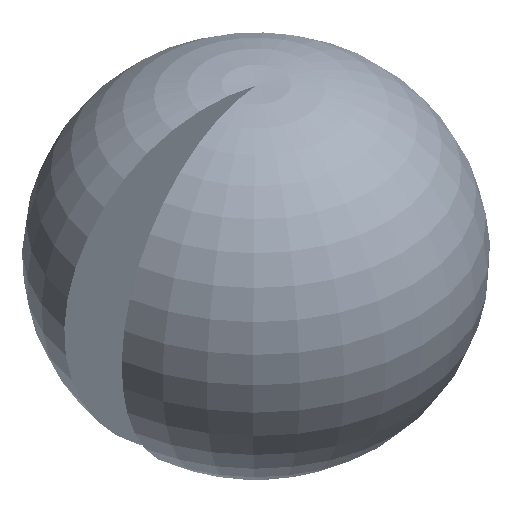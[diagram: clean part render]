
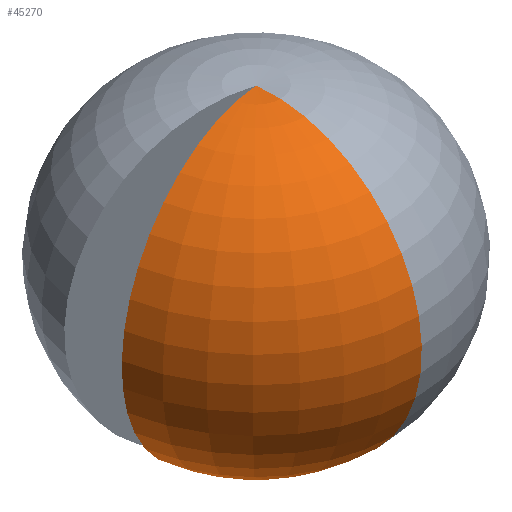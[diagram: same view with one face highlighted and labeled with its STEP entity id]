
A CAD part, isometric view. The second image highlights one B-rep face of the part: STEP entity #45270.
In plain terms, the highlighted toroidal (fillet/blend) face has major radius 280 mm and minor radius 2421.05 mm.
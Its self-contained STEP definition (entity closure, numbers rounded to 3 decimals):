
#11891 = AXIS2_PLACEMENT_3D ( 'NONE', #280921, #147930, #124513 ) ;
#12551 = ORIENTED_EDGE ( 'NONE', *, *, #157571, .F. ) ;
#18762 = CARTESIAN_POINT ( 'NONE',  ( 0., 0., -1313.211 ) ) ;
#27217 = CARTESIAN_POINT ( 'NONE',  ( 0., 0., 3074.808 ) ) ;
#45270 = ADVANCED_FACE ( 'NONE', ( #78253 ), #334143, .T. ) ;
#46600 = DIRECTION ( 'NONE',  ( 0., 1., 0. ) ) ;
#78253 = FACE_OUTER_BOUND ( 'NONE', #87385, .T. ) ;
#87385 = EDGE_LOOP ( 'NONE', ( #12551, #141745, #241250 ) ) ;
#100112 = DIRECTION ( 'NONE',  ( -0.985, -0.174, 0. ) ) ;
#101261 = VERTEX_POINT ( 'NONE', #27217 ) ;
#106385 = CARTESIAN_POINT ( 'NONE',  ( -275.746, -48.621, 670. ) ) ;
#111572 = AXIS2_PLACEMENT_3D ( 'NONE', #399278, #344322, #46600 ) ;
#124513 = DIRECTION ( 'NONE',  ( 0., 1., 0. ) ) ;
#136030 = DIRECTION ( 'NONE',  ( -0.174, 0.985, 0. ) ) ;
#141745 = ORIENTED_EDGE ( 'NONE', *, *, #265169, .F. ) ;
#147582 = DIRECTION ( 'NONE',  ( 0., 1., 0. ) ) ;
#147930 = DIRECTION ( 'NONE',  ( 1., 0., 0. ) ) ;
#149336 = AXIS2_PLACEMENT_3D ( 'NONE', #18762, #179283, #147582 ) ;
#154169 = CARTESIAN_POINT ( 'NONE',  ( 0., -1668.66, -1313.211 ) ) ;
#157571 = EDGE_CURVE ( 'NONE', #101261, #344861, #207285, .T. ) ;
#166548 = VERTEX_POINT ( 'NONE', #318241 ) ;
#179283 = DIRECTION ( 'NONE',  ( 0., 0., -1. ) ) ;
#207285 = CIRCLE ( 'NONE', #11891, 2421.054 ) ;
#241250 = ORIENTED_EDGE ( 'NONE', *, *, #291361, .F. ) ;
#265169 = EDGE_CURVE ( 'NONE', #166548, #101261, #292083, .T. ) ;
#280921 = CARTESIAN_POINT ( 'NONE',  ( 0., -280., 670. ) ) ;
#291361 = EDGE_CURVE ( 'NONE', #344861, #166548, #345041, .T. ) ;
#292083 = CIRCLE ( 'NONE', #305398, 2421.054 ) ;
#305398 = AXIS2_PLACEMENT_3D ( 'NONE', #106385, #136030, #100112 ) ;
#318241 = CARTESIAN_POINT ( 'NONE',  ( -1643.309, -289.76, -1313.211 ) ) ;
#334143 = TOROIDAL_SURFACE ( 'NONE', #111572, 280., 2421.054 ) ;
#344322 = DIRECTION ( 'NONE',  ( 0., 0., -1. ) ) ;
#344861 = VERTEX_POINT ( 'NONE', #154169 ) ;
#345041 = CIRCLE ( 'NONE', #149336, 1668.66 ) ;
#399278 = CARTESIAN_POINT ( 'NONE',  ( 0., 0., 670. ) ) ;
